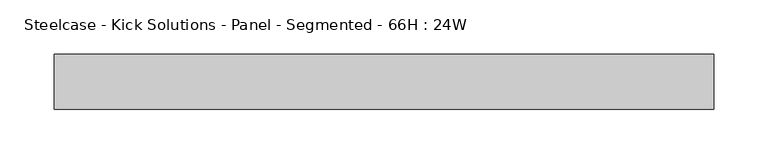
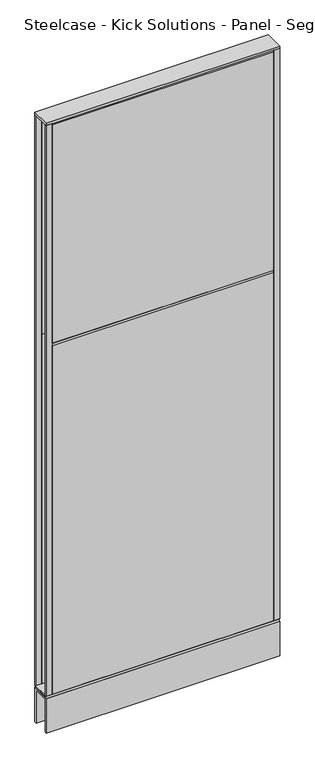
"""IFC4 building model written with IfcOpenShell, lengths in millimetres: furniture geometry, Steelcase - Kick Solutions - Panel - Segmented - 66H : 24W."""

from ifc_helpers import new_model, si_unit, frame, origin, place, context, project, spatial, polyline, outline, extrude, source, transform, mapped, element, save


def steelcase_kick_solutions_panel_segmented_66h_24w_82a41bed(model_context):
    return source(origin(), model_context, "Body", "SweptSolid", [
        extrude(outline(polyline([(1.5e-06, 1069.8811552), (-3.175, 1066.8), (-3.175, 1676.4), (1.5e-06, 1673.3188448), (1.5e-06, 1069.8811552)])), frame((15.8749996, 0.0, 0.0), z_axis=(1.0, 0.0, 0.0), x_axis=(0.0, 1.0, 0.0)), (0.0, 0.0, 1.0), 577.8500008),
        extrude(outline(polyline([(1.5e-06, 101.600003), (-3.175, 101.600003), (-3.175, 1066.8), (1.5e-06, 1063.7188448), (1.5e-06, 101.600003)])), frame((15.8749996, 0.0, 0.0), z_axis=(1.0, 0.0, 0.0), x_axis=(0.0, 1.0, 0.0)), (0.0, 0.0, 1.0), 577.8500008),
        extrude(outline(polyline([(-50.8000015, 1069.8811552), (-50.8000015, 1673.3188448), (-47.625, 1676.4), (-47.625, 1066.8), (-50.8000015, 1069.8811552)])), frame((15.8749996, 0.0, 0.0), z_axis=(1.0, 0.0, 0.0), x_axis=(0.0, 1.0, 0.0)), (0.0, 0.0, 1.0), 577.8500008),
        extrude(outline(polyline([(-50.8000015, 101.600003), (-50.8000015, 1063.7188448), (-47.625, 1066.8), (-47.625, 101.600003), (-50.8000015, 101.600003)])), frame((15.8749996, 0.0, 0.0), z_axis=(1.0, 0.0, 0.0), x_axis=(0.0, 1.0, 0.0)), (0.0, 0.0, 1.0), 577.8500008),
        extrude(outline(polyline([(609.6, -3.1750015), (593.7250004, -3.1750015), (593.7250004, 0.0), (609.6, 0.0), (609.6, -3.1750015)])), frame((0.0, 0.0, 101.7169049), z_axis=(0.0, 0.0, 1.0), x_axis=(1.0, 0.0, 0.0)), (0.0, 0.0, 1.0), 1574.799997),
        extrude(outline(polyline([(15.8749996, -50.8000015), (0.0, -50.8000015), (0.0, -47.625), (15.8749996, -47.625), (15.8749996, -50.8000015)])), frame((0.0, 0.0, 101.7169049), z_axis=(0.0, 0.0, 1.0), x_axis=(1.0, 0.0, 0.0)), (0.0, 0.0, 1.0), 1574.799997),
        extrude(outline(polyline([(-50.7995075, 101.7169049), (-0.000494, 101.7169049), (-3.0583512, 98.5421458), (-47.7416503, 98.5421458), (-50.7995075, 101.7169049)])), frame((0.0, 0.0, 0.0), z_axis=(1.0, 0.0, 0.0), x_axis=(0.0, 1.0, 0.0)), (0.0, 0.0, 1.0), 609.6),
        extrude(outline(polyline([(609.6, 0.0), (609.6, -50.8000015), (0.0, -50.8000015), (0.0, 0.0), (609.6, 0.0)])), frame((0.0, 0.0, 1676.5169018), z_axis=(0.0, 0.0, 1.0), x_axis=(1.0, 0.0, 0.0)), (0.0, 0.0, 1.0), 6.35),
        extrude(outline(polyline([(15.8749996, -3.1750015), (0.0, -3.1750015), (0.0, 0.0), (15.8749996, 0.0), (15.8749996, -3.1750015)])), frame((0.0, 0.0, 101.7169049), z_axis=(0.0, 0.0, 1.0), x_axis=(1.0, 0.0, 0.0)), (0.0, 0.0, 1.0), 1574.799997),
        extrude(outline(polyline([(609.6, -50.8000015), (593.7250004, -50.8000015), (593.7250004, -47.625), (609.6, -47.625), (609.6, -50.8000015)])), frame((0.0, 0.0, 101.7169049), z_axis=(0.0, 0.0, 1.0), x_axis=(1.0, 0.0, 0.0)), (0.0, 0.0, 1.0), 1574.799997),
        extrude(outline(polyline([(-50.8000015, 95.3668927), (-47.6247484, 98.5421458), (-3.1752531, 98.5421458), (0.0, 95.3668927), (-50.8000015, 95.3668927)])), frame((0.0, 0.0, 0.0), z_axis=(1.0, 0.0, 0.0), x_axis=(0.0, 1.0, 0.0)), (0.0, 0.0, 1.0), 609.6),
        extrude(outline(polyline([(0.0, 0.0), (-5.08, 0.0), (-5.08, 90.2869018), (-45.7200015, 90.2869018), (-45.7200015, 0.0), (-50.8000015, 0.0), (-50.8000015, 95.3669018), (0.0, 95.3669018), (0.0, 0.0)])), frame((0.0, 0.0, 0.0), z_axis=(1.0, 0.0, 0.0), x_axis=(0.0, 1.0, 0.0)), (0.0, 0.0, 1.0), 609.6),
    ])


if __name__ == "__main__":
    model = new_model("IFC4")
    model_context = context("Model", 3, world=origin())
    ifc_project = project(units=[si_unit("LENGTHUNIT", "METRE", prefix="MILLI")], contexts=[model_context])
    site = spatial("IfcSite", under=ifc_project)
    building = spatial("IfcBuilding", under=site)
    placement = place(None, origin())
    steelcase_kick_solutions_panel_segmented_66h_24w_shape = steelcase_kick_solutions_panel_segmented_66h_24w_82a41bed(model_context)
    element("IfcFurniture", 1, ObjectType="Steelcase - Kick Solutions - Panel - Segmented - 66H : 24W", at=placement, inside=building, context=model_context, shape_type="MappedRepresentation", body=[
        mapped(steelcase_kick_solutions_panel_segmented_66h_24w_shape, transform((0.0, 0.0, 0.0), x_axis=(1.0, 0.0, 0.0), y_axis=(0.0, 1.0, 0.0), z_axis=(0.0, 0.0, 1.0))),
    ])
    save(model, "model.ifc")
